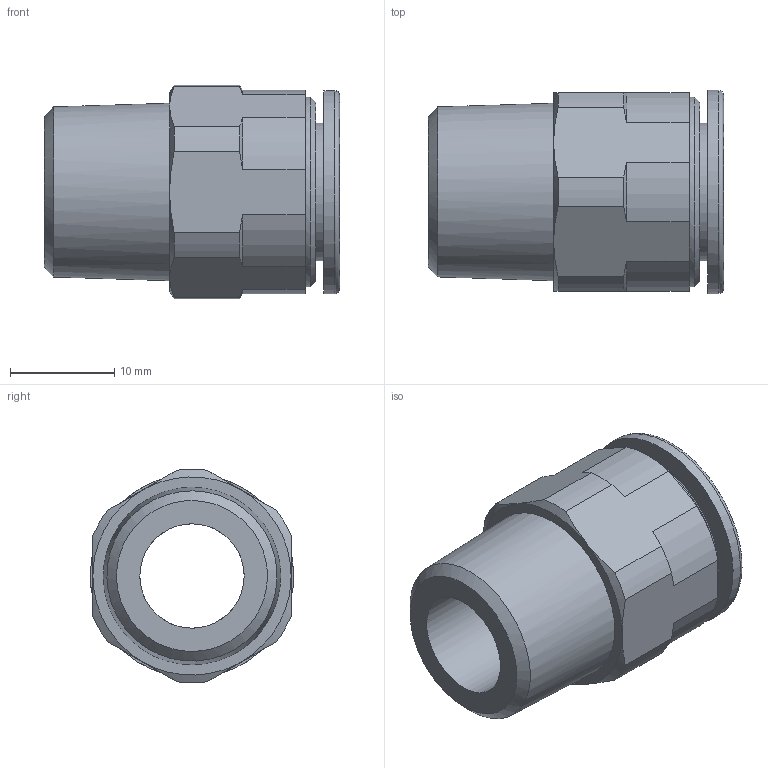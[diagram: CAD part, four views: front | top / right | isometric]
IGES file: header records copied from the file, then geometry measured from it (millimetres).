
Global section: file name: [16] FS12-03M FS12-03MW; native system: Autodesk Inventor 2014; preprocessor: unknown; author: kazuhiro.t; date: 20130806.164437; units: millimetre
Bounding box: 28.3 x 19.49 x 20.5 mm (x, y, z)
Volume: 4553.1 mm3; surface area: 3293.4 mm2
Topology: 1 solids, 1 shells, 46 faces, 112 edges, 73 vertices
Faces by surface type: bspline 46
